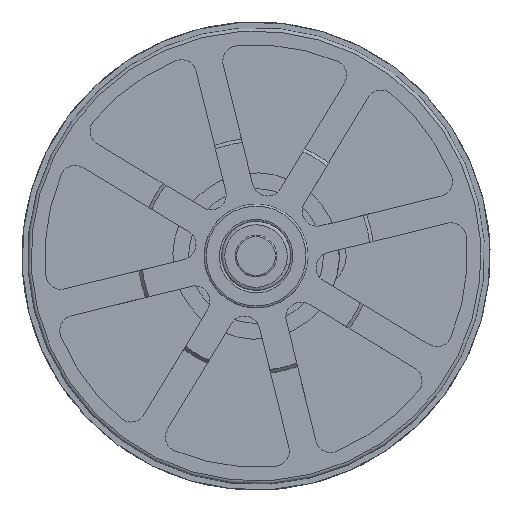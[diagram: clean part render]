
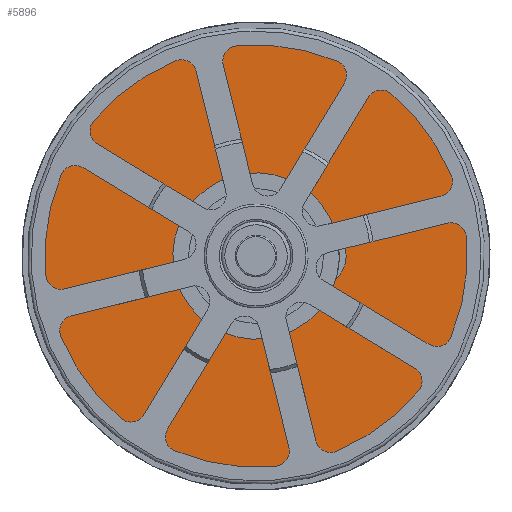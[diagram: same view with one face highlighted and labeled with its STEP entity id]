
A CAD part, left-side view. The second image highlights one B-rep face of the part: STEP entity #5896.
In plain terms, the highlighted planar face has unit normal (-1, 0, 0).
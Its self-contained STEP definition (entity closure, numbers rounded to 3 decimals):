
#157=FACE_BOUND('',#1106,.T.);
#243=PLANE('',#6554);
#751=FACE_OUTER_BOUND('',#1105,.T.);
#1105=EDGE_LOOP('',(#4891));
#1106=EDGE_LOOP('',(#4892));
#1703=CIRCLE('',#6053,10.);
#1898=CIRCLE('',#6391,31.45);
#2148=VERTEX_POINT('',#9098);
#2438=VERTEX_POINT('',#10071);
#2738=EDGE_CURVE('',#2148,#2148,#1703,.T.);
#3172=EDGE_CURVE('',#2438,#2438,#1898,.T.);
#4891=ORIENTED_EDGE('',*,*,#3172,.F.);
#4892=ORIENTED_EDGE('',*,*,#2738,.T.);
#5896=ADVANCED_FACE('',(#751,#157),#243,.F.);
#6053=AXIS2_PLACEMENT_3D('',#9099,#6785,#6786);
#6391=AXIS2_PLACEMENT_3D('',#10072,#7647,#7648);
#6554=AXIS2_PLACEMENT_3D('',#11323,#7979,#7980);
#6785=DIRECTION('center_axis',(1.,0.,0.));
#6786=DIRECTION('ref_axis',(0.,0.84,-0.543));
#7647=DIRECTION('center_axis',(1.,0.,0.));
#7648=DIRECTION('ref_axis',(0.,0.971,-0.239));
#7979=DIRECTION('center_axis',(1.,0.,0.));
#7980=DIRECTION('ref_axis',(0.,-0.206,0.979));
#9098=CARTESIAN_POINT('',(9.5,-5.426,-8.4));
#9099=CARTESIAN_POINT('Origin',(9.5,0.,
0.));
#10071=CARTESIAN_POINT('',(9.5,-30.536,7.527));
#10072=CARTESIAN_POINT('Origin',(9.5,0.,
0.));
#11323=CARTESIAN_POINT('Origin',(9.5,-31.077,-6.428));
